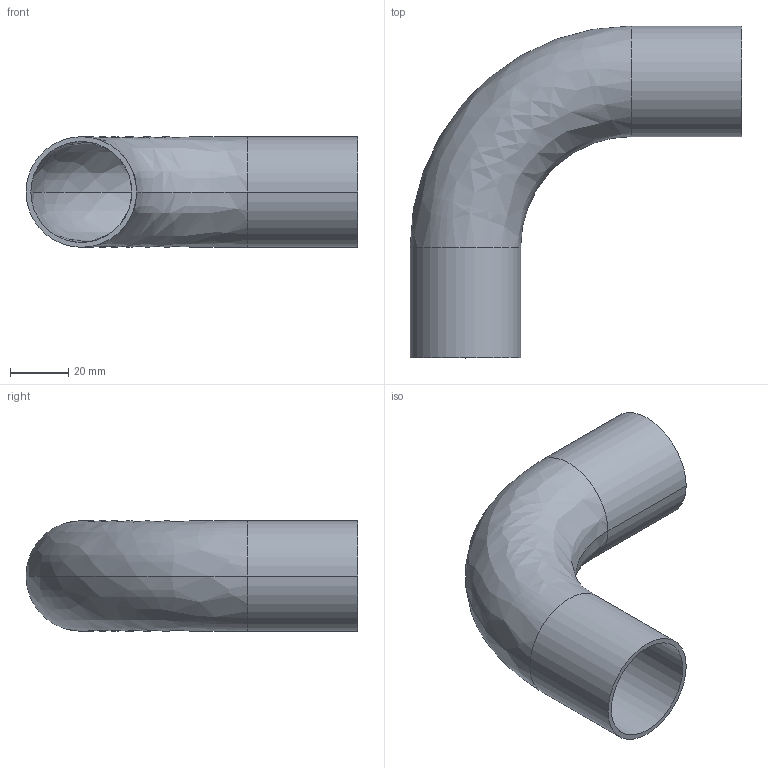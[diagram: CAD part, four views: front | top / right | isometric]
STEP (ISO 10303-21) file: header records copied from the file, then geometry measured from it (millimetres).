
FILE_DESCRIPTION (( 'STEP AP214' ), '1' );
FILE_NAME ('TE2S6L1.5-...STEP', '2016-05-22T10:27:56', ( 'eran' ), ( '' ), 'SwSTEP 2.0', 'SolidWorks 2016', '' );
FILE_SCHEMA (( 'AUTOMOTIVE_DESIGN' ));
Length unit declared in the file: millimetre
Products named in the file (1): TE2S6L1.5-..
Bounding box: 114.35 x 114.35 x 38.1 mm (x, y, z)
Volume: 31373.9 mm3; surface area: 38406.9 mm2
Topology: 1 solids, 1 shells, 14 faces, 28 edges, 16 vertices
Faces by surface type: cylinder 8, bspline 4, plane 2
Entity records: 450 total; most frequent: CARTESIAN_POINT 119, DIRECTION 70, ORIENTED_EDGE 56, AXIS2_PLACEMENT_3D 31, EDGE_CURVE 28, CIRCLE 20, EDGE_LOOP 16, VERTEX_POINT 16
